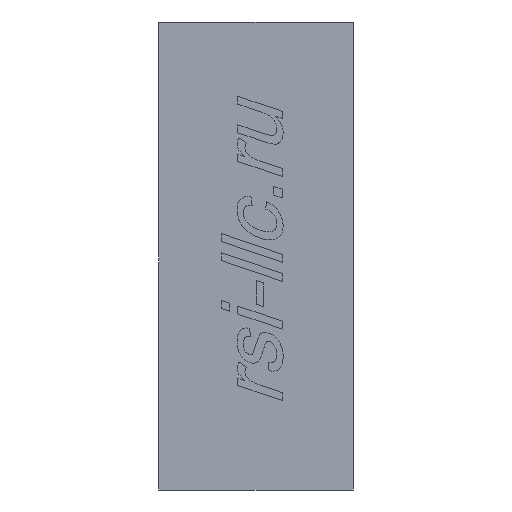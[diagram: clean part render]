
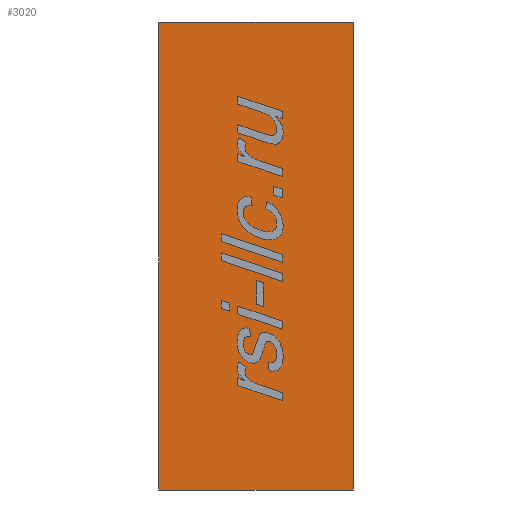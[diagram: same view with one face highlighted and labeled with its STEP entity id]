
A CAD part, front view. The second image highlights one B-rep face of the part: STEP entity #3020.
In plain terms, the highlighted planar face has unit normal (0, -1, 0).
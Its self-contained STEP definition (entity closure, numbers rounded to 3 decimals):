
#319 = DIRECTION ( 'NONE',  ( 0., 0., 1. ) ) ;
#502 = CARTESIAN_POINT ( 'NONE',  ( -11.4, 0., 27.5 ) ) ;
#826 = PLANE ( 'NONE',  #3772 ) ;
#976 = VERTEX_POINT ( 'NONE', #2740 ) ;
#1268 = VECTOR ( 'NONE', #5472, 1000. ) ;
#1276 = LINE ( 'NONE', #3352, #1268 ) ;
#1335 = VECTOR ( 'NONE', #3619, 1000. ) ;
#1390 = DIRECTION ( 'NONE',  ( 0., 0., -1. ) ) ;
#1550 = CARTESIAN_POINT ( 'NONE',  ( -11.4, 0., -27.5 ) ) ;
#1557 = EDGE_CURVE ( 'NONE', #5888, #1861, #5212, .T. ) ;
#1760 = EDGE_CURVE ( 'NONE', #1861, #976, #3964, .T. ) ;
#1861 = VERTEX_POINT ( 'NONE', #2611 ) ;
#2586 = DIRECTION ( 'NONE',  ( 1., 0., 0. ) ) ;
#2611 = CARTESIAN_POINT ( 'NONE',  ( 11.4, 0., 27.5 ) ) ;
#2740 = CARTESIAN_POINT ( 'NONE',  ( 11.4, 0., -27.5 ) ) ;
#2888 = VECTOR ( 'NONE', #1390, 1000. ) ;
#2891 = VECTOR ( 'NONE', #2586, 1000. ) ;
#2910 = CARTESIAN_POINT ( 'NONE',  ( 0., 0., 0. ) ) ;
#2972 = EDGE_CURVE ( 'NONE', #976, #3937, #1276, .T. ) ;
#3017 = ORIENTED_EDGE ( 'NONE', *, *, #5909, .F. ) ;
#3020 = ADVANCED_FACE ( 'NONE', ( #5537 ), #826, .F. ) ;
#3352 = CARTESIAN_POINT ( 'NONE',  ( -11.4, 0., -27.5 ) ) ;
#3619 = DIRECTION ( 'NONE',  ( 0., 0., 1. ) ) ;
#3772 = AXIS2_PLACEMENT_3D ( 'NONE', #2910, #5021, #319 ) ;
#3927 = ORIENTED_EDGE ( 'NONE', *, *, #2972, .F. ) ;
#3937 = VERTEX_POINT ( 'NONE', #4486 ) ;
#3964 = LINE ( 'NONE', #6099, #2888 ) ;
#4130 = CARTESIAN_POINT ( 'NONE',  ( -11.4, 0., 27.5 ) ) ;
#4201 = EDGE_LOOP ( 'NONE', ( #5577, #6633, #3017, #3927 ) ) ;
#4486 = CARTESIAN_POINT ( 'NONE',  ( -11.4, 0., -27.5 ) ) ;
#5021 = DIRECTION ( 'NONE',  ( 0., 1., 0. ) ) ;
#5212 = LINE ( 'NONE', #502, #2891 ) ;
#5472 = DIRECTION ( 'NONE',  ( -1., 0., 0. ) ) ;
#5537 = FACE_OUTER_BOUND ( 'NONE', #4201, .T. ) ;
#5577 = ORIENTED_EDGE ( 'NONE', *, *, #1760, .F. ) ;
#5888 = VERTEX_POINT ( 'NONE', #4130 ) ;
#5909 = EDGE_CURVE ( 'NONE', #3937, #5888, #6258, .T. ) ;
#6099 = CARTESIAN_POINT ( 'NONE',  ( 11.4, 0., -27.5 ) ) ;
#6258 = LINE ( 'NONE', #1550, #1335 ) ;
#6633 = ORIENTED_EDGE ( 'NONE', *, *, #1557, .F. ) ;
